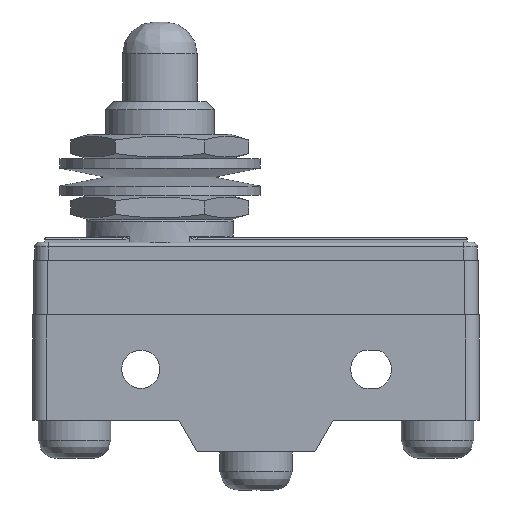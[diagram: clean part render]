
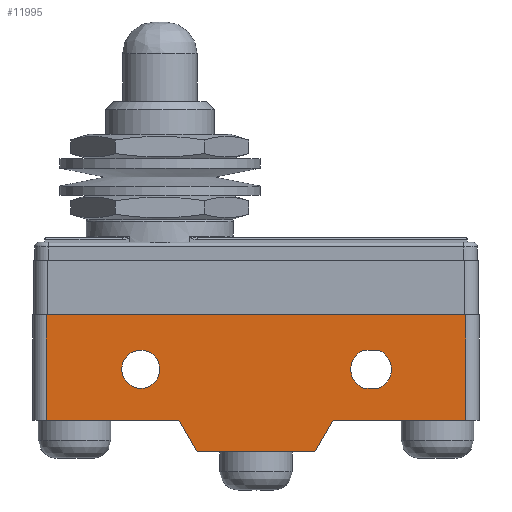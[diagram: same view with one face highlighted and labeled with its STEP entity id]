
A CAD part, left-side view. The second image highlights one B-rep face of the part: STEP entity #11995.
In plain terms, the highlighted planar face has unit normal (-1, 0, 0).
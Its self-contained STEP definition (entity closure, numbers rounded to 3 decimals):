
#1394=FACE_BOUND('',#2500,.T.);
#1395=FACE_BOUND('',#2501,.T.);
#1463=PLANE('',#12682);
#1824=FACE_OUTER_BOUND('',#2499,.T.);
#2499=EDGE_LOOP('',(#8532,#8533,#8534,#8535,#8536,#8537,#8538,#8539));
#2500=EDGE_LOOP('',(#8540));
#2501=EDGE_LOOP('',(#8541,#8542,#8543,#8544));
#3231=LINE('',#15302,#4304);
#3257=LINE('',#15448,#4330);
#3276=LINE('',#15608,#4349);
#3278=LINE('',#15612,#4351);
#3279=LINE('',#15613,#4352);
#3280=LINE('',#15615,#4353);
#3281=LINE('',#15617,#4354);
#3282=LINE('',#15618,#4355);
#3283=LINE('',#15623,#4356);
#3284=LINE('',#15627,#4357);
#4304=VECTOR('',#13195,14.6);
#4330=VECTOR('',#13241,14.6);
#4349=VECTOR('',#13264,11.6);
#4351=VECTOR('',#13268,46.2);
#4352=VECTOR('',#13269,11.6);
#4353=VECTOR('',#13270,4.031);
#4354=VECTOR('',#13271,13.);
#4355=VECTOR('',#13272,4.031);
#4356=VECTOR('',#13275,1.616);
#4357=VECTOR('',#13278,1.616);
#5383=CIRCLE('',#12683,2.1);
#5384=CIRCLE('',#12684,2.25);
#5385=CIRCLE('',#12685,2.25);
#5482=VERTEX_POINT('',#15299);
#5483=VERTEX_POINT('',#15301);
#5528=VERTEX_POINT('',#15445);
#5529=VERTEX_POINT('',#15447);
#5572=VERTEX_POINT('',#15606);
#5573=VERTEX_POINT('',#15611);
#5574=VERTEX_POINT('',#15614);
#5575=VERTEX_POINT('',#15616);
#5576=VERTEX_POINT('',#15619);
#5577=VERTEX_POINT('',#15621);
#5578=VERTEX_POINT('',#15622);
#5579=VERTEX_POINT('',#15624);
#5580=VERTEX_POINT('',#15626);
#6665=EDGE_CURVE('',#5483,#5482,#3231,.T.);
#6714=EDGE_CURVE('',#5529,#5528,#3257,.T.);
#6758=EDGE_CURVE('',#5572,#5528,#3276,.T.);
#6760=EDGE_CURVE('',#5572,#5573,#3278,.T.);
#6761=EDGE_CURVE('',#5483,#5573,#3279,.T.);
#6762=EDGE_CURVE('',#5482,#5574,#3280,.T.);
#6763=EDGE_CURVE('',#5574,#5575,#3281,.T.);
#6764=EDGE_CURVE('',#5575,#5529,#3282,.T.);
#6765=EDGE_CURVE('',#5576,#5576,#5383,.T.);
#6766=EDGE_CURVE('',#5577,#5578,#3283,.T.);
#6767=EDGE_CURVE('',#5578,#5579,#5384,.T.);
#6768=EDGE_CURVE('',#5579,#5580,#3284,.T.);
#6769=EDGE_CURVE('',#5580,#5577,#5385,.T.);
#8532=ORIENTED_EDGE('',*,*,#6758,.F.);
#8533=ORIENTED_EDGE('',*,*,#6760,.T.);
#8534=ORIENTED_EDGE('',*,*,#6761,.F.);
#8535=ORIENTED_EDGE('',*,*,#6665,.T.);
#8536=ORIENTED_EDGE('',*,*,#6762,.T.);
#8537=ORIENTED_EDGE('',*,*,#6763,.T.);
#8538=ORIENTED_EDGE('',*,*,#6764,.T.);
#8539=ORIENTED_EDGE('',*,*,#6714,.T.);
#8540=ORIENTED_EDGE('',*,*,#6765,.T.);
#8541=ORIENTED_EDGE('',*,*,#6766,.T.);
#8542=ORIENTED_EDGE('',*,*,#6767,.T.);
#8543=ORIENTED_EDGE('',*,*,#6768,.T.);
#8544=ORIENTED_EDGE('',*,*,#6769,.T.);
#11995=ADVANCED_FACE('',(#1824,#1394,#1395),#1463,.T.);
#12682=AXIS2_PLACEMENT_3D('',#15610,#13266,#13267);
#12683=AXIS2_PLACEMENT_3D('',#15620,#13273,#13274);
#12684=AXIS2_PLACEMENT_3D('',#15625,#13276,#13277);
#12685=AXIS2_PLACEMENT_3D('',#15628,#13279,#13280);
#13195=DIRECTION('',(0.,-1.,0.));
#13241=DIRECTION('',(0.,-1.,0.));
#13264=DIRECTION('',(0.,0.,-1.));
#13266=DIRECTION('center_axis',(-1.,0.,0.));
#13267=DIRECTION('ref_axis',(0.,0.,1.));
#13268=DIRECTION('',(0.,1.,0.));
#13269=DIRECTION('',(0.,0.,1.));
#13270=DIRECTION('',(0.,-0.496,-0.868));
#13271=DIRECTION('',(0.,-1.,0.));
#13272=DIRECTION('',(0.,-0.496,0.868));
#13273=DIRECTION('center_axis',(1.,0.,0.));
#13274=DIRECTION('ref_axis',(0.,0.,1.));
#13275=DIRECTION('',(0.,-1.,0.));
#13276=DIRECTION('center_axis',(1.,0.,0.));
#13277=DIRECTION('ref_axis',(0.,-0.359,0.933));
#13278=DIRECTION('',(0.,1.,0.));
#13279=DIRECTION('center_axis',(1.,0.,0.));
#13280=DIRECTION('ref_axis',(0.,0.359,-0.933));
#15299=CARTESIAN_POINT('',(-8.75,8.5,3.5));
#15301=CARTESIAN_POINT('',(-8.75,23.1,3.5));
#15302=CARTESIAN_POINT('',(-8.75,4.25,3.5));
#15445=CARTESIAN_POINT('',(-8.75,-23.1,3.5));
#15447=CARTESIAN_POINT('',(-8.75,-8.5,3.5));
#15448=CARTESIAN_POINT('',(-8.75,-12.3,3.5));
#15606=CARTESIAN_POINT('',(-8.75,-23.1,15.1));
#15608=CARTESIAN_POINT('',(-8.75,-23.1,11.325));
#15610=CARTESIAN_POINT('Origin',(-8.75,0.,7.55));
#15611=CARTESIAN_POINT('',(-8.75,23.1,15.1));
#15612=CARTESIAN_POINT('',(-8.75,-24.6,15.1));
#15613=CARTESIAN_POINT('',(-8.75,23.1,3.775));
#15614=CARTESIAN_POINT('',(-8.75,6.5,0.));
#15615=CARTESIAN_POINT('',(-8.75,7.326,1.446));
#15616=CARTESIAN_POINT('',(-8.75,-6.5,0.));
#15617=CARTESIAN_POINT('',(-8.75,24.6,0.));
#15618=CARTESIAN_POINT('',(-8.75,-8.326,3.196));
#15619=CARTESIAN_POINT('',(-8.75,12.7,7.));
#15620=CARTESIAN_POINT('Origin',(-8.75,12.7,9.1));
#15621=CARTESIAN_POINT('',(-8.75,-11.892,11.2));
#15622=CARTESIAN_POINT('',(-8.75,-13.508,11.2));
#15623=CARTESIAN_POINT('',(-8.75,-6.754,11.2));
#15624=CARTESIAN_POINT('',(-8.75,-13.508,7.));
#15625=CARTESIAN_POINT('Origin',(-8.75,-12.7,9.1));
#15626=CARTESIAN_POINT('',(-8.75,-11.892,7.));
#15627=CARTESIAN_POINT('',(-8.75,-5.946,7.));
#15628=CARTESIAN_POINT('Origin',(-8.75,-12.7,9.1));
